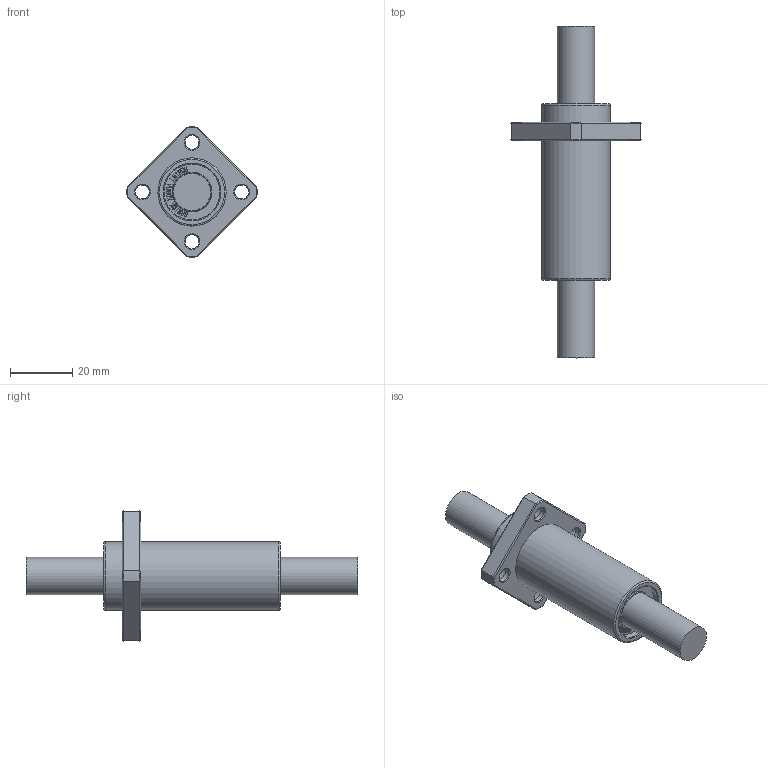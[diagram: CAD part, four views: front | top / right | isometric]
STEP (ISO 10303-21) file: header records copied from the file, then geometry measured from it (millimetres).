
FILE_DESCRIPTION(/* description */ (''),/* implementation_level */ '2;1');
FILE_NAME(/* name */ 'W:\(01) 2024년 홈페이지 CAD파일 최신화\LMEKP_L\IPT\LMEKP12LUU.stp',/* time_stamp */ '2025-01-25T13:04:10+09:00',/* author */ ('서우현'),/* organization */ (''),/* preprocessor_version */ 'ST-DEVELOPER v17.2',/* originating_system */ 'Autodesk Inventor 2019',/* authorisation */ '');
FILE_SCHEMA (('AUTOMOTIVE_DESIGN { 1 0 10303 214 3 1 1 }'));
Length unit declared in the file: millimetre
Products named in the file (1): LM5
Bounding box: 41.98 x 107 x 41.98 mm (x, y, z)
Volume: 29494.8 mm3; surface area: 8894.8 mm2
Topology: 1 solids, 1 shells, 864 faces, 2424 edges, 1616 vertices
Faces by surface type: bspline 580, plane 244, cone 20, cylinder 18, torus 2
Full cylindrical faces by diameter (mm): 4.5 x4, 8 x4, 12 x2, 18 x2, 22 x2
Entity records: 29651 total; most frequent: CARTESIAN_POINT 10885, ORIENTED_EDGE 4848, EDGE_CURVE 2424, DIRECTION 1908, VERTEX_POINT 1616, B_SPLINE_CURVE_WITH_KNOTS 1160, LINE 1158, VECTOR 1158
